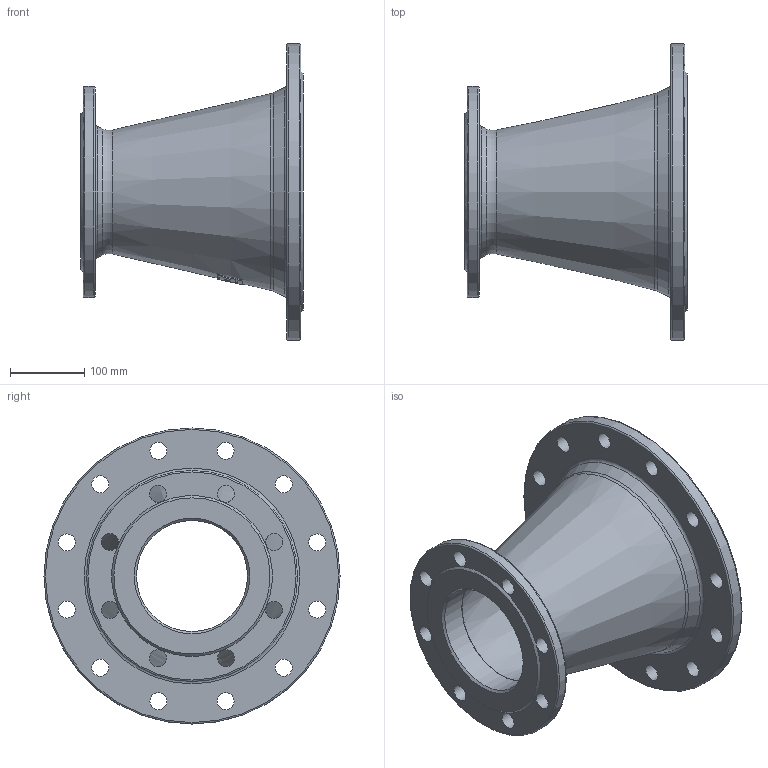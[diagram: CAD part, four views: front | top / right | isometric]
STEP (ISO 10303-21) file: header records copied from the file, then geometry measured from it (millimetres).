
FILE_DESCRIPTION (( 'STEP AP203' ), '1' );
FILE_NAME ('O_712_2210_DN250_DN150_0X_REV01.step', '2024-08-08T05:47:36', ( '' ), ( '' ), 'SwSTEP 2.0', 'SolidWorks 2022', '' );
FILE_SCHEMA (( 'CONFIG_CONTROL_DESIGN' ));
Length unit declared in the file: millimetre
Products named in the file (1): O_712_2210_DN250_DN150_0X_REV01
Bounding box: 300 x 400 x 400 mm (x, y, z)
Volume: 3622863 mm3; surface area: 642290.9 mm2
Topology: 1 solids, 1 shells, 89 faces, 255 edges, 167 vertices
Faces by surface type: plane 41, cylinder 26, cone 12, torus 10
Full cylindrical faces by diameter (mm): 23 x20, 150 x1, 250 x1, 285 x1, 400 x1
Entity records: 2727 total; most frequent: CARTESIAN_POINT 602, DIRECTION 431, ORIENTED_EDGE 372, AXIS2_PLACEMENT_3D 197, EDGE_CURVE 186, EDGE_LOOP 173, VERTEX_POINT 141, FACE_OUTER_BOUND 123
